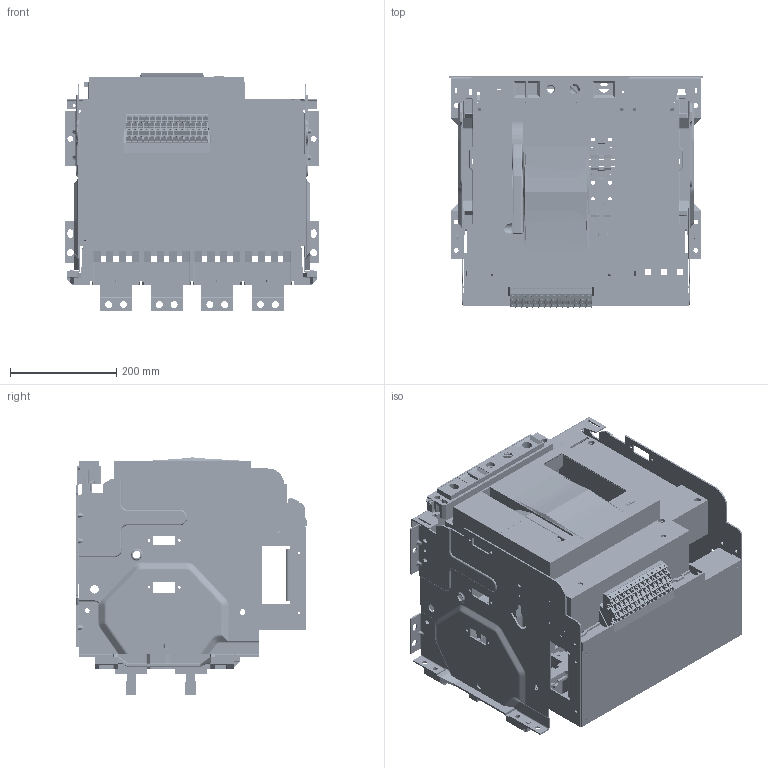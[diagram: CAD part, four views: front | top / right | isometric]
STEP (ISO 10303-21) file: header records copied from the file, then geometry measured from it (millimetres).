
FILE_DESCRIPTION((''),'2;1');
FILE_NAME('NA8G-2500-DO-2500-4P_ASM','2020-05-12T16:37:06',('lcc'),(''),'CREO PARAMETRIC BY PTC INC, 2018020','CREO PARAMETRIC BY PTC INC, 2018020','');
FILE_SCHEMA(('CONFIG_CONTROL_DESIGN','SHAPE_APPEARANCE_LAYERS_GROUPS'));
Products named in the file (22): 8-024-490-4P; 8-050-238; 8-050-239; 8-300-089---4; 8ZTD-300-019; 8ZTD-227-004; 8ZTD-235-048; 8ZTD-860-049-2; DW45-2000-DIJIA-4P; 8-060-MIANBAN-11; 8-060-140---4; 8-253-289; 8-253-290; 8-253-309; 8-253-034; 8ZTD-300-279; 8ZTD-064-137; 8ZTD-024-634; 8ZTD-860-699; 8ZTD-580-216-1; 8ZTD-580-217-1; NA8G-2500-DO-2500-4P_ASM
Assembly tree (42 placements, depth 2):
  NA8G-2500-DO-2500-4P_ASM
    8-024-490-4P
    8-050-238
    8-050-239
    8-300-089---4
    8ZTD-300-019
    8ZTD-227-004
    8ZTD-235-048
    8ZTD-860-049-2
    DW45-2000-DIJIA-4P
    8-060-MIANBAN-11
    8-060-140---4
    8-253-289
    8-253-290
    8-253-309
    8-253-034
    8ZTD-300-279
    8ZTD-064-137
    8ZTD-024-634  x14
    8ZTD-860-699
    8ZTD-580-216-1  x2
    8ZTD-580-217-1  x8
Bounding box: 476 x 434.04 x 446 mm (x, y, z)
Volume: 6703037.1 mm3; surface area: 3425306.1 mm2
Topology: 41 solids, 58 shells, 9483 faces, 26508 edges, 17053 vertices
Faces by surface type: plane 6527, cylinder 2227, bspline 351, torus 178, cone 125, sphere 75
Entity records: 281049 total; most frequent: CARTESIAN_POINT 55577, ORIENTED_EDGE 38316, DIRECTION 35793, EDGE_CURVE 19197, VECTOR 14225, LINE 14225, VERTEX_POINT 12255, PRESENTATION_STYLE_ASSIGNMENT 10931
